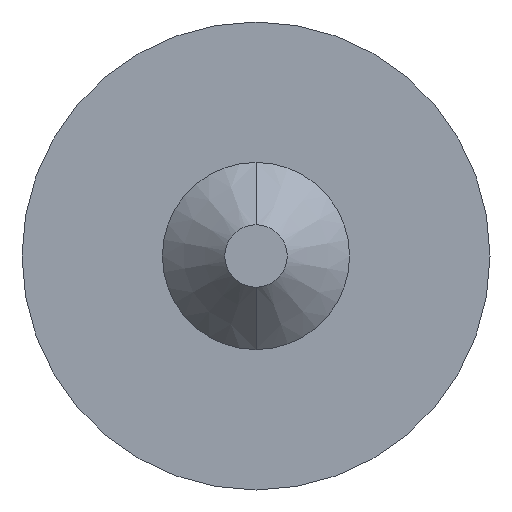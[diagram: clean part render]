
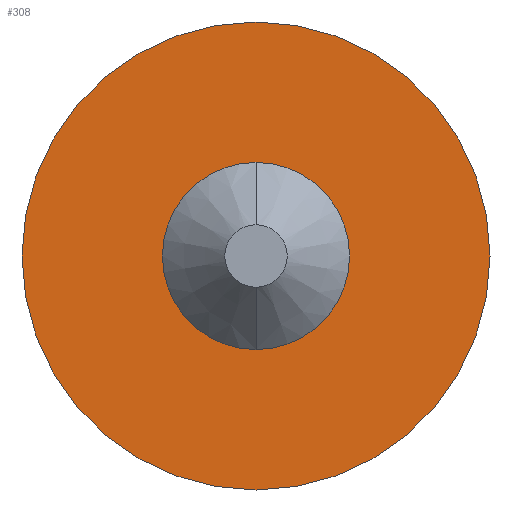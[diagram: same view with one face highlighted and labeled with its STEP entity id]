
A CAD part, front view. The second image highlights one B-rep face of the part: STEP entity #308.
In plain terms, the highlighted planar face has unit normal (0, -1, 0).
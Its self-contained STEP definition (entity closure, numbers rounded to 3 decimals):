
#69=CARTESIAN_POINT('',(0.,2.,0.));
#70=DIRECTION('',(0.,-1.,0.));
#71=DIRECTION('',(0.,0.,-1.));
#72=AXIS2_PLACEMENT_3D('',#69,#70,#71);
#82=CARTESIAN_POINT('',(0.,2.,0.));
#83=DIRECTION('',(0.,1.,0.));
#84=DIRECTION('',(0.,0.,-1.));
#85=AXIS2_PLACEMENT_3D('',#82,#83,#84);
#87=CARTESIAN_POINT('',(0.,2.,0.));
#88=DIRECTION('',(0.,-1.,0.));
#89=DIRECTION('',(0.,0.,-1.));
#90=AXIS2_PLACEMENT_3D('',#87,#88,#89);
#92=CARTESIAN_POINT('',(0.,2.,0.));
#93=DIRECTION('',(0.,1.,0.));
#94=DIRECTION('',(0.,0.,-1.));
#95=AXIS2_PLACEMENT_3D('',#92,#93,#94);
#143=CARTESIAN_POINT('',(0.,2.,-0.3));
#144=VERTEX_POINT('',#143);
#145=CARTESIAN_POINT('',(0.,2.,-0.75));
#147=VERTEX_POINT('',#145);
#159=CARTESIAN_POINT('',(0.,2.,0.3));
#160=VERTEX_POINT('',#159);
#161=CARTESIAN_POINT('',(0.,2.,0.75));
#163=VERTEX_POINT('',#161);
#293=CARTESIAN_POINT('',(0.,2.,0.));
#294=DIRECTION('',(0.,-1.,0.));
#295=DIRECTION('',(0.,0.,1.));
#296=AXIS2_PLACEMENT_3D('',#293,#294,#295);
#297=PLANE('',#296);
#298=ORIENTED_EDGE('',*,*,#288,.T.);
#299=ORIENTED_EDGE('',*,*,#272,.F.);
#300=EDGE_LOOP('',(#298,#299));
#301=FACE_OUTER_BOUND('',#300,.F.);
#303=ORIENTED_EDGE('',*,*,#302,.T.);
#305=ORIENTED_EDGE('',*,*,#304,.F.);
#306=EDGE_LOOP('',(#303,#305));
#307=FACE_BOUND('',#306,.F.);
#308=ADVANCED_FACE('',(#301,#307),#297,.T.);
#73=CIRCLE('',#72,0.75);
#86=CIRCLE('',#85,0.75);
#91=CIRCLE('',#90,0.3);
#96=CIRCLE('',#95,0.3);
#272=EDGE_CURVE('',#147,#163,#73,.T.);
#288=EDGE_CURVE('',#147,#163,#86,.T.);
#302=EDGE_CURVE('',#144,#160,#91,.T.);
#304=EDGE_CURVE('',#144,#160,#96,.T.);
